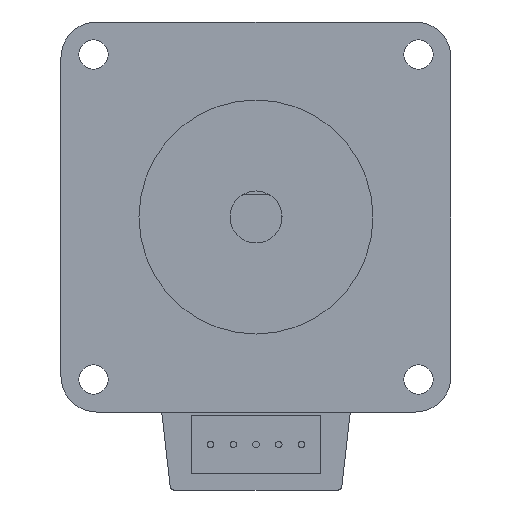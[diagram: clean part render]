
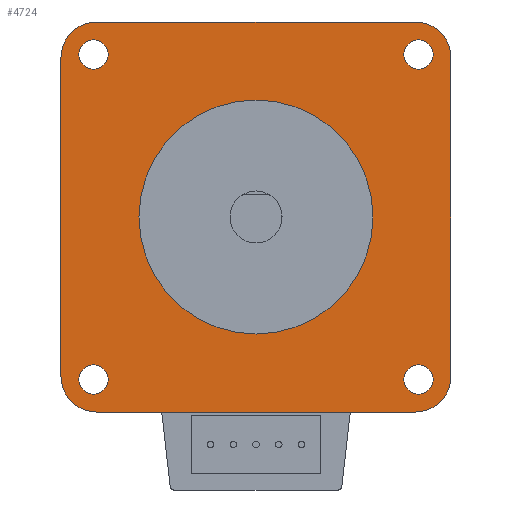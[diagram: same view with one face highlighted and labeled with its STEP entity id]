
A CAD part, front view. The second image highlights one B-rep face of the part: STEP entity #4724.
In plain terms, the highlighted planar face has unit normal (0, -1, 0).
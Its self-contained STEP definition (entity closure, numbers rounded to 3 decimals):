
#4282=CARTESIAN_POINT('POINT151187',(24.5,0.,
   30.));
#4283=VERTEX_POINT('VERTEX151187',#4282);
#4290=CARTESIAN_POINT('POINT151188',(30.,0.,
   24.5));
#4291=VERTEX_POINT('VERTEX151188',#4290);
#4292=CARTESIAN_POINT('POS254792',(24.5,0.,
   24.5));
#4293=DIRECTION('DIR380502',(0.,1.,
   0.));
#4294=DIRECTION('DIR380503',(0.,0.
   ,1.));
#4295=AXIS2_PLACEMENT_3D('AXIS125711',#4292,#4293,#4294);
#4296=CIRCLE('ELLIPSE57865',#4295,5.5);
#4297=EDGE_CURVE('EDGE234865',#4283,#4291,#4296,.T.);
#4319=CARTESIAN_POINT('POINT151189',(30.,0.,
   -24.5));
#4320=VERTEX_POINT('VERTEX151189',#4319);
#4321=CARTESIAN_POINT('POS254795',(30.,0.,
   24.5));
#4322=DIRECTION('DIR380507',(0.,
   0.,-1.));
#4323=VECTOR('VEC129083',#4322,1.);
#4324=LINE('STRAIGHT129083',#4321,#4323);
#4325=EDGE_CURVE('EDGE234867',#4291,#4320,#4324,.T.);
#4343=CARTESIAN_POINT('POINT151190',(24.5,0.,
   -30.));
#4344=VERTEX_POINT('VERTEX151190',#4343);
#4345=CARTESIAN_POINT('POS254798',(24.5,0.,
   -24.5));
#4346=DIRECTION('DIR380511',(0.,1.,
   0.));
#4347=DIRECTION('DIR380512',(1.,0.,0.));
#4348=AXIS2_PLACEMENT_3D('AXIS125714',#4345,#4346,#4347);
#4349=CIRCLE('ELLIPSE57866',#4348,5.5);
#4350=EDGE_CURVE('EDGE234869',#4320,#4344,#4349,.T.);
#4372=CARTESIAN_POINT('POINT151191',(-24.5,0.,
   -30.));
#4373=VERTEX_POINT('VERTEX151191',#4372);
#4374=CARTESIAN_POINT('POS254801',(24.5,0.,
   -30.));
#4375=DIRECTION('DIR380516',(-1.,0.,
   0.));
#4376=VECTOR('VEC129086',#4375,1.);
#4377=LINE('STRAIGHT129086',#4374,#4376);
#4378=EDGE_CURVE('EDGE234871',#4344,#4373,#4377,.T.);
#4396=CARTESIAN_POINT('POINT151192',(-30.,0.,
   -24.5));
#4397=VERTEX_POINT('VERTEX151192',#4396);
#4398=CARTESIAN_POINT('POS254804',(-24.5,0.,
   -24.5));
#4399=DIRECTION('DIR380520',(0.,1.,
   0.));
#4400=DIRECTION('DIR380521',(0.,
   0.,-1.));
#4401=AXIS2_PLACEMENT_3D('AXIS125717',#4398,#4399,#4400);
#4402=CIRCLE('ELLIPSE57867',#4401,5.5);
#4403=EDGE_CURVE('EDGE234873',#4373,#4397,#4402,.T.);
#4425=CARTESIAN_POINT('POINT151193',(-30.,0.,
   24.5));
#4426=VERTEX_POINT('VERTEX151193',#4425);
#4427=CARTESIAN_POINT('POS254807',(-30.,0.,
   -24.5));
#4428=DIRECTION('DIR380525',(0.,0.
   ,1.));
#4429=VECTOR('VEC129089',#4428,1.);
#4430=LINE('STRAIGHT129089',#4427,#4429);
#4431=EDGE_CURVE('EDGE234875',#4397,#4426,#4430,.T.);
#4449=CARTESIAN_POINT('POINT151194',(-24.5,0.,
   30.));
#4450=VERTEX_POINT('VERTEX151194',#4449);
#4451=CARTESIAN_POINT('POS254810',(-24.5,0.,
   24.5));
#4452=DIRECTION('DIR380529',(0.,1.,
   0.));
#4453=DIRECTION('DIR380530',(-1.,0.,0.));
#4454=AXIS2_PLACEMENT_3D('AXIS125720',#4451,#4452,#4453);
#4455=CIRCLE('ELLIPSE57868',#4454,5.5);
#4456=EDGE_CURVE('EDGE234877',#4426,#4450,#4455,.T.);
#4478=CARTESIAN_POINT('POS254813',(0.,
   0.,30.));
#4479=DIRECTION('DIR380534',(1.,0.,0.));
#4480=VECTOR('VEC129092',#4479,1.);
#4481=LINE('STRAIGHT129092',#4478,#4480);
#4482=EDGE_CURVE('EDGE234879',#4450,#4283,#4481,.T.);
#4493=CARTESIAN_POINT('POINT151195',(-25.,0.,
   22.75));
#4494=VERTEX_POINT('VERTEX151195',#4493);
#4501=CARTESIAN_POINT('POINT151196',(-25.,0.,
   27.25));
#4502=VERTEX_POINT('VERTEX151196',#4501);
#4503=CARTESIAN_POINT('POS254816',(-25.,0.,
   25.));
#4504=DIRECTION('DIR380538',(0.,1.,
   0.));
#4505=DIRECTION('DIR380539',(0.,0.,-1.))
   ;
#4506=AXIS2_PLACEMENT_3D('AXIS125723',#4503,#4504,#4505);
#4507=CIRCLE('ELLIPSE57869',#4506,2.25);
#4508=EDGE_CURVE('EDGE234881',#4502,#4494,#4507,.T.);
#4528=EDGE_CURVE('EDGE234883',#4494,#4502,#4507,.T.);
#4533=CARTESIAN_POINT('POINT151197',(25.,0.,
   22.75));
#4534=VERTEX_POINT('VERTEX151197',#4533);
#4541=CARTESIAN_POINT('POINT151198',(25.,0.,
   27.25));
#4542=VERTEX_POINT('VERTEX151198',#4541);
#4543=CARTESIAN_POINT('POS254820',(25.,0.,
   25.));
#4544=DIRECTION('DIR380544',(0.,1.,
   0.));
#4545=DIRECTION('DIR380545',(0.,0.,-1.))
   ;
#4546=AXIS2_PLACEMENT_3D('AXIS125725',#4543,#4544,#4545);
#4547=CIRCLE('ELLIPSE57870',#4546,2.25);
#4548=EDGE_CURVE('EDGE234885',#4542,#4534,#4547,.T.);
#4568=EDGE_CURVE('EDGE234887',#4534,#4542,#4547,.T.);
#4573=CARTESIAN_POINT('POINT151199',(-25.,0.,
   -27.25));
#4574=VERTEX_POINT('VERTEX151199',#4573);
#4581=CARTESIAN_POINT('POINT151200',(-25.,0.,
   -22.75));
#4582=VERTEX_POINT('VERTEX151200',#4581);
#4583=CARTESIAN_POINT('POS254824',(-25.,0.,
   -25.));
#4584=DIRECTION('DIR380550',(0.,1.,
   0.));
#4585=DIRECTION('DIR380551',(0.,0.,-1.))
   ;
#4586=AXIS2_PLACEMENT_3D('AXIS125727',#4583,#4584,#4585);
#4587=CIRCLE('ELLIPSE57871',#4586,2.25);
#4588=EDGE_CURVE('EDGE234889',#4582,#4574,#4587,.T.);
#4608=EDGE_CURVE('EDGE234891',#4574,#4582,#4587,.T.);
#4613=CARTESIAN_POINT('POINT151201',(25.,0.,
   -27.25));
#4614=VERTEX_POINT('VERTEX151201',#4613);
#4621=CARTESIAN_POINT('POINT151202',(25.,0.,
   -22.75));
#4622=VERTEX_POINT('VERTEX151202',#4621);
#4623=CARTESIAN_POINT('POS254828',(25.,0.,
   -25.));
#4624=DIRECTION('DIR380556',(0.,1.,
   0.));
#4625=DIRECTION('DIR380557',(0.,0.,-1.))
   ;
#4626=AXIS2_PLACEMENT_3D('AXIS125729',#4623,#4624,#4625);
#4627=CIRCLE('ELLIPSE57872',#4626,2.25);
#4628=EDGE_CURVE('EDGE234893',#4622,#4614,#4627,.T.);
#4648=EDGE_CURVE('EDGE234895',#4614,#4622,#4627,.T.);
#4678=ORIENTED_EDGE('COEDGE469909',*,*,#4648,.T.);
#4679=ORIENTED_EDGE('COEDGE469910',*,*,#4628,.T.);
#4680=EDGE_LOOP('NONE',(#4678,#4679));
#4681=FACE_BOUND('LOOP1',#4680,.T.);
#4682=ORIENTED_EDGE('COEDGE469911',*,*,#4608,.T.);
#4683=ORIENTED_EDGE('COEDGE469912',*,*,#4588,.T.);
#4684=EDGE_LOOP('NONE',(#4682,#4683));
#4685=FACE_BOUND('LOOP1',#4684,.T.);
#4686=ORIENTED_EDGE('COEDGE469913',*,*,#4568,.T.);
#4687=ORIENTED_EDGE('COEDGE469914',*,*,#4548,.T.);
#4688=EDGE_LOOP('NONE',(#4686,#4687));
#4689=FACE_BOUND('LOOP1',#4688,.T.);
#4690=ORIENTED_EDGE('COEDGE469915',*,*,#4528,.T.);
#4691=ORIENTED_EDGE('COEDGE469916',*,*,#4508,.T.);
#4692=EDGE_LOOP('NONE',(#4690,#4691));
#4693=FACE_BOUND('LOOP1',#4692,.T.);
#4694=CARTESIAN_POINT('POINT151205',(0.,
   0.,-18.));
#4695=VERTEX_POINT('VERTEX151205',#4694);
#4696=CARTESIAN_POINT('POINT151206',(0.,
   0.,18.));
#4697=VERTEX_POINT('VERTEX151206',#4696);
#4698=CARTESIAN_POINT('POS254833',(0.,0.,0.));
#4699=DIRECTION('DIR380565',(0.,1.,
   0.));
#4700=DIRECTION('DIR380566',(0.,
   0.,-1.));
#4701=AXIS2_PLACEMENT_3D('AXIS125733',#4698,#4699,#4700);
#4702=CIRCLE('ELLIPSE57874',#4701,18.);
#4703=EDGE_CURVE('EDGE234898',#4695,#4697,#4702,.T.);
#4704=ORIENTED_EDGE('COEDGE469917',*,*,#4703,.T.);
#4705=EDGE_CURVE('EDGE234899',#4697,#4695,#4702,.T.);
#4706=ORIENTED_EDGE('COEDGE469918',*,*,#4705,.T.);
#4707=EDGE_LOOP('NONE',(#4704,#4706));
#4708=FACE_BOUND('LOOP1',#4707,.T.);
#4709=ORIENTED_EDGE('COEDGE469919',*,*,#4482,.F.);
#4710=ORIENTED_EDGE('COEDGE469920',*,*,#4456,.F.);
#4711=ORIENTED_EDGE('COEDGE469921',*,*,#4431,.F.);
#4712=ORIENTED_EDGE('COEDGE469922',*,*,#4403,.F.);
#4713=ORIENTED_EDGE('COEDGE469923',*,*,#4378,.F.);
#4714=ORIENTED_EDGE('COEDGE469924',*,*,#4350,.F.);
#4715=ORIENTED_EDGE('COEDGE469925',*,*,#4325,.F.);
#4716=ORIENTED_EDGE('COEDGE469926',*,*,#4297,.F.);
#4717=EDGE_LOOP('NONE',(#4709,#4710,#4711,#4712,#4713,#4714,#4715,#4716)
   );
#4718=FACE_BOUND('LOOP1',#4717,.T.);
#4719=CARTESIAN_POINT('POS254834',(0.,
   0.,0.));
#4720=DIRECTION('DIR380567',(0.,1.,
   0.));
#4721=DIRECTION('DIR380568',(1.,0.,
   0.));
#4722=AXIS2_PLACEMENT_3D('AXIS125734',#4719,#4720,#4721);
#4723=PLANE('PLANE37893',#4722);
#4724=ADVANCED_FACE('FACE94090',(#4681,#4685,#4689,#4693,#4708,#4718),
   #4723,.F.);
